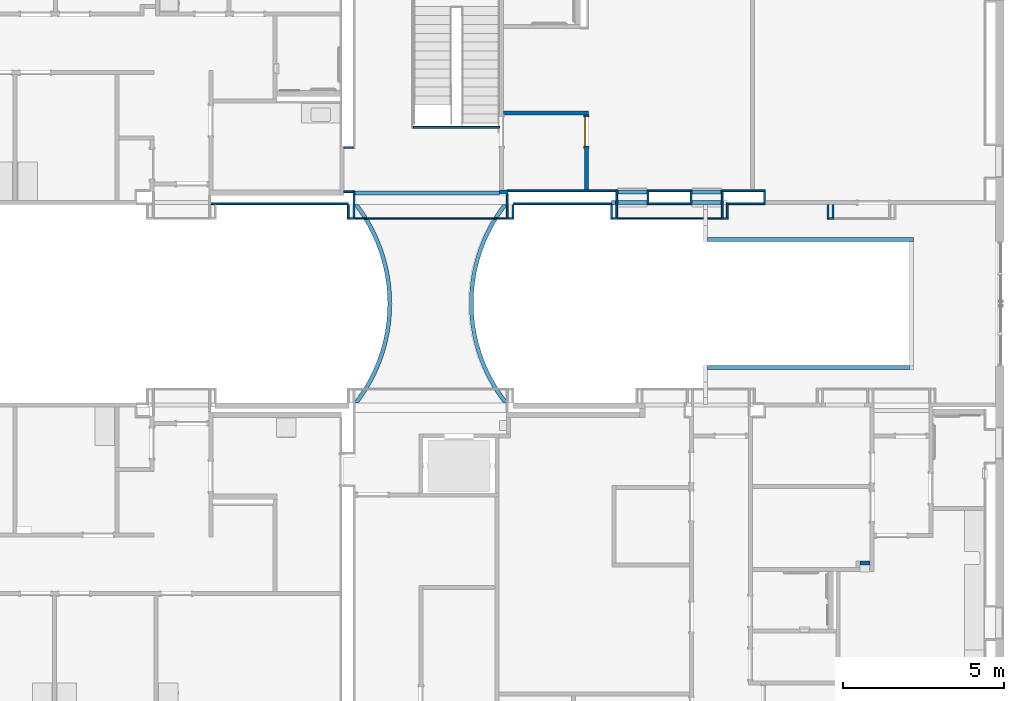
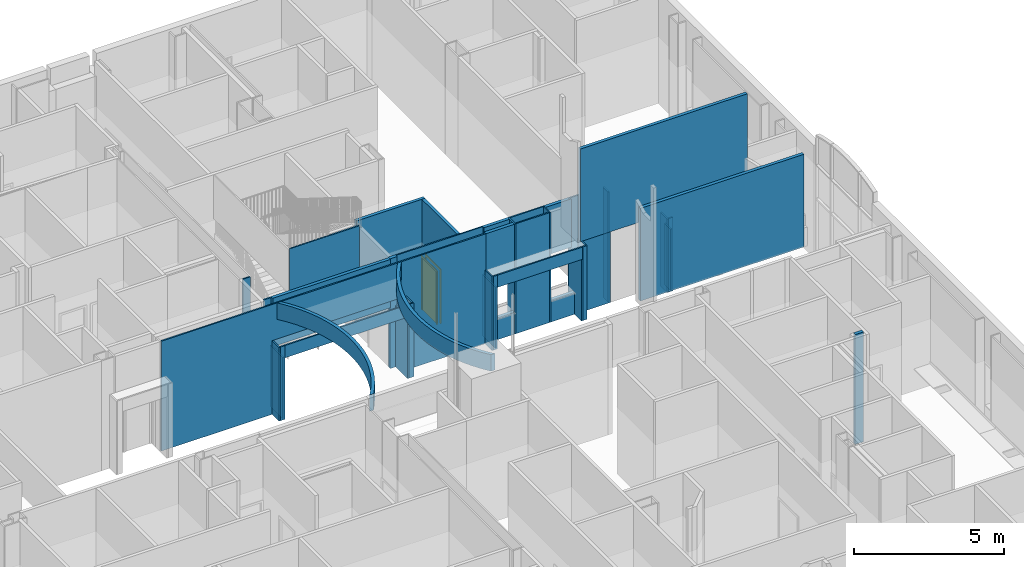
# One storey, part 37 of 82: 43 walls, 1 door, 2 openings.
"""IFC2X3 building model written with IfcOpenShell, lengths in metres."""

from ifc_helpers import new_model, entity, si_unit, converted_unit, frame, frame_2d, origin, origin_2d_with_axis, place, context, project, spatial, polyline, circle_curve, parameter, trimmed, segment, composite_curve, rectangle, outline, extrude, clip, halfspace, source, transform, mapped, material, layer, layer_set, layer_usage, type_object, type_shapes, element, fill, save


model = new_model("IFC2X3")

# Units and contexts
model_context = context("Model", 3, precision=1e-09, world=origin())
plan_context = context("Plan", 3, precision=1e-09, world=origin())
ifc_project = project(units=[si_unit("LENGTHUNIT", "METRE"), si_unit("AREAUNIT", "SQUARE_METRE"), si_unit("VOLUMEUNIT", "CUBIC_METRE"), converted_unit("PLANEANGLEUNIT", "DEGREE", entity("IfcRatioMeasure", 0.01745329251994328), si_unit("PLANEANGLEUNIT", "RADIAN"), dimensions=[0, 0, 0, 0, 0, 0, 0]), si_unit("TIMEUNIT", "SECOND")], contexts=[model_context, plan_context])

# Site, building, storey
site_placement = place(None, origin())
site = spatial("IfcSite", under=ifc_project, at=site_placement, Name="Default", CompositionType="ELEMENT")
building_placement = place(site_placement, origin())
building = spatial("IfcBuilding", under=site, at=building_placement, CompositionType="ELEMENT")
storey_placement = place(building_placement, origin())
storey = spatial("IfcBuildingStorey", under=building, at=storey_placement, Name="First Floor", CompositionType="ELEMENT", Elevation=-3.531500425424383e-13)

# Wall, opening
ifc_material_1 = material(Name="Metal - Stud Layer")
ifc_layer_1 = layer(ifc_material_1, 0.038)
ifc_material_2 = material(Name="Plasterboard")
ifc_layer_2 = layer(ifc_material_2, 0.016)
ifc_layer_set_1 = layer_set([ifc_layer_1, ifc_layer_2], Name="Basic Wall:Interior - Furring (38 mm Stud)")
ifc_layer_usage_1 = layer_usage(ifc_layer_set_1, "AXIS2", "NEGATIVE", 0.027)
wall_1_placement = place(storey_placement, frame((-24.31600000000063, 34.80699999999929, 0.0)))
wall_1 = element("IfcWallStandardCase", 1, at=wall_1_placement, inside=storey, material=ifc_layer_usage_1, Name="Basic Wall:Interior - Furring (38 mm Stud)", ObjectType="Basic Wall:Interior - Furring (38 mm Stud)", context=model_context, shape_type="SweptSolid", body=[
    extrude(rectangle(XDim=12.50500000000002, YDim=0.05399999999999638, at=frame_2d((6.25250000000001, 0.0), x_axis=(-1.0, 0.0))), origin(), (0.0, 0.0, 1.0), 4.468000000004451),
])
opening_1_placement = place(wall_1_placement, frame((6.848512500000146, 0.02699999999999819, 1.5)))
element("IfcOpeningElement", 2, at=opening_1_placement, cuts=wall_1, Name="Basic Wall:Interior - Furring (38 mm Stud):2", ObjectType="Opening", context=model_context, shape_type="SweptSolid", body=[
    extrude(rectangle(XDim=3.0, YDim=5.131024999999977, at=frame_2d((0.0, 0.0), x_axis=(0.0, 1.0))), frame((0.0, 0.0, 0.0), z_axis=(0.0, -1.0, 0.0), x_axis=(1.0, 0.0, 0.0)), (0.0, 0.0, 1.0), 0.05400000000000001),
])

# Walls
ifc_layer_3 = layer(ifc_material_2, 0.016)
ifc_layer_4 = layer(ifc_material_1, 0.092)
ifc_layer_5 = layer(ifc_material_2, 0.016)
ifc_layer_set_2 = layer_set([ifc_layer_3, ifc_layer_4, ifc_layer_5], Name="Basic Wall:Interior - Partition (92mm Stud)")
ifc_layer_usage_2 = layer_usage(ifc_layer_set_2, "AXIS2", "NEGATIVE", 0.062)
wall_2_placement = place(storey_placement, frame((-10.7300000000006, 34.84199999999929, 0.8899999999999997), z_axis=(0.0, 0.0, 1.0), x_axis=(-1.0, 0.0, 0.0)))
element("IfcWallStandardCase", 3, at=wall_2_placement, inside=storey, material=ifc_layer_usage_2, Name="Basic Wall:Interior - Partition (92mm Stud)", ObjectType="Basic Wall:Interior - Partition (92mm Stud)", context=model_context, shape_type="Clipping", body=[
    clip(extrude(rectangle(XDim=1.108000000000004, YDim=0.1239999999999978, at=frame_2d((0.5540000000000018, 0.0), x_axis=(-1.0, 0.0))), origin(), (0.0, 0.0, 1.0), 3.578000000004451), halfspace(frame((1.081000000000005, -0.0619999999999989, 1.61), z_axis=(0.0, 0.0, -1.0), x_axis=(0.0, 1.0, 0.0)), False)),
])
wall_3_placement = place(storey_placement, frame((-2.436000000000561, 33.69199999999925, 3.8), z_axis=(0.0, 0.0, 1.0), x_axis=(-1.0, 0.0, 0.0)))
element("IfcWallStandardCase", 4, at=wall_3_placement, inside=storey, material=ifc_layer_usage_2, Name="Basic Wall:Interior - Partition (92mm Stud)", ObjectType="Basic Wall:Interior - Partition (92mm Stud)", context=model_context, shape_type="SweptSolid", body=[
    extrude(rectangle(XDim=6.421726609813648, YDim=0.1240000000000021, at=frame_2d((3.210863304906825, 0.0), x_axis=(-1.0, 0.0))), origin(), (0.0, 0.0, 1.0), 3.77000000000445),
])
ifc_layer_usage_3 = layer_usage(ifc_layer_set_1, "AXIS2", "POSITIVE", -0.027)
wall_4_placement = place(storey_placement, frame((-9.367000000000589, 35.18599999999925, 0.0), z_axis=(0.0, 0.0, 1.0), x_axis=(0.0, -1.0, 0.0)))
element("IfcWallStandardCase", 5, at=wall_4_placement, inside=storey, material=ifc_layer_usage_3, Name="Basic Wall:Interior - Furring (38 mm Stud)", ObjectType="Basic Wall:Interior - Furring (38 mm Stud)", context=model_context, shape_type="SweptSolid", body=[
    extrude(rectangle(XDim=0.4059999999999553, YDim=0.05400000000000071, at=frame_2d((0.2029999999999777, 0.0), x_axis=(-1.0, 0.0))), origin(), (0.0, 0.0, 1.0), 4.46800000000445),
])
wall_5_placement = place(storey_placement, frame((-9.39400000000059, 34.80699999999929, 0.0), z_axis=(0.0, 0.0, 1.0), x_axis=(-1.0, 0.0, 0.0)))
element("IfcWallStandardCase", 6, at=wall_5_placement, inside=storey, material=ifc_layer_usage_3, Name="Basic Wall:Interior - Furring (38 mm Stud)", ObjectType="Basic Wall:Interior - Furring (38 mm Stud)", context=model_context, shape_type="SweptSolid", body=[
    extrude(rectangle(XDim=1.282000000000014, YDim=0.05399999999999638, at=frame_2d((0.641000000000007, 0.0), x_axis=(-1.0, 0.0))), origin(), (0.0, 0.0, 1.0), 4.46800000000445),
])
wall_6_placement = place(storey_placement, frame((-19.85700000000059, 34.37400192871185, 0.0), z_axis=(0.0, 0.0, 1.0), x_axis=(0.0, 1.0, 0.0)))
element("IfcWallStandardCase", 7, at=wall_6_placement, inside=storey, material=ifc_layer_usage_1, Name="Basic Wall:Interior - Furring (38 mm Stud)", ObjectType="Basic Wall:Interior - Furring (38 mm Stud)", context=model_context, shape_type="SweptSolid", body=[
    extrude(rectangle(XDim=0.8319980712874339, YDim=0.05399999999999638, at=frame_2d((0.4159990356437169, 0.0), x_axis=(-1.0, 0.0))), origin(), (0.0, 0.0, 1.0), 2.5),
])
wall_7_placement = place(storey_placement, frame((-15.08297500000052, 35.11599999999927, 0.0), z_axis=(0.0, 0.0, 1.0), x_axis=(0.0, -1.0, 0.0)))
element("IfcWallStandardCase", 8, at=wall_7_placement, inside=storey, material=ifc_layer_usage_1, Name="Basic Wall:Interior - Furring (38 mm Stud)", ObjectType="Basic Wall:Interior - Furring (38 mm Stud)", context=model_context, shape_type="SweptSolid", body=[
    extrude(rectangle(XDim=0.7960000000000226, YDim=0.05400000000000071, at=frame_2d((0.3980000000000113, 0.0), x_axis=(-1.0, 0.0))), origin(), (0.0, 0.0, 1.0), 2.5),
])
wall_8_placement = place(storey_placement, frame((-19.85700000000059, 34.34699999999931, 2.5)))
element("IfcWallStandardCase", 9, at=wall_8_placement, inside=storey, material=ifc_layer_usage_1, Name="Basic Wall:Interior - Furring (38 mm Stud)", ObjectType="Basic Wall:Interior - Furring (38 mm Stud)", context=model_context, shape_type="SweptSolid", body=[
    extrude(rectangle(XDim=4.774025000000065, YDim=0.05399999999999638, at=frame_2d((2.387012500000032, 0.0), x_axis=(-1.0, 0.0))), origin(), (0.0, 0.0, 1.0), 0.5),
])
ifc_layer_usage_4 = layer_usage(ifc_layer_set_2, "AXIS2", "POSITIVE", -0.062)
wall_9_placement = place(storey_placement, frame((-2.498000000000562, 29.70799999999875, 3.8), z_axis=(0.0, 0.0, 1.0), x_axis=(-1.0, 0.0, 0.0)))
element("IfcWallStandardCase", 10, at=wall_9_placement, inside=storey, material=ifc_layer_usage_4, Name="Basic Wall:Interior - Partition (92mm Stud)", ObjectType="Basic Wall:Interior - Partition (92mm Stud)", context=model_context, shape_type="SweptSolid", body=[
    extrude(rectangle(XDim=6.297726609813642, YDim=0.1240000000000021, at=frame_2d((3.210863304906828, 0.0), x_axis=(-1.0, 0.0))), origin(), (0.0, 0.0, 1.0), 3.77000000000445),
])
wall_10_placement = place(storey_placement, frame((-10.7030000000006, 34.77999999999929, 0.0), z_axis=(0.0, 0.0, 1.0), x_axis=(0.0, 1.0, 0.0)))
element("IfcWallStandardCase", 11, at=wall_10_placement, inside=storey, material=ifc_layer_usage_3, Name="Basic Wall:Interior - Furring (38 mm Stud)", ObjectType="Basic Wall:Interior - Furring (38 mm Stud)", context=model_context, shape_type="SweptSolid", body=[
    extrude(rectangle(XDim=0.4599999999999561, YDim=0.05400000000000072, at=frame_2d((0.229999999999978, 0.0), x_axis=(-1.0, 0.0))), origin(), (0.0, 0.0, 1.0), 4.46800000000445),
])
wall_11_placement = place(storey_placement, frame((-15.05597500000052, 35.17799999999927, 0.0), z_axis=(0.0, 0.0, 1.0), x_axis=(-1.0, 0.0, 0.0)))
element("IfcWallStandardCase", 12, at=wall_11_placement, inside=storey, material=ifc_layer_usage_2, Name="Basic Wall:Interior - Partition (92mm Stud)", ObjectType="Basic Wall:Interior - Partition (92mm Stud)", context=model_context, shape_type="SweptSolid", body=[
    extrude(rectangle(XDim=0.2640250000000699, YDim=0.1240000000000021, at=frame_2d((0.132012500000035, 0.0), x_axis=(-1.0, 0.0))), origin(), (0.0, 0.0, 1.0), 4.468000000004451),
])
wall_12_placement = place(storey_placement, frame((-19.85700000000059, 35.14399999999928, 2.5)))
element("IfcWallStandardCase", 13, at=wall_12_placement, inside=storey, material=ifc_layer_usage_2, Name="Basic Wall:Interior - Partition (92mm Stud)", ObjectType="Basic Wall:Interior - Partition (92mm Stud)", context=model_context, shape_type="SweptSolid", body=[
    extrude(rectangle(XDim=4.537000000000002, YDim=0.1239999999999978, at=frame_2d((2.268500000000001, 0.0), x_axis=(-1.0, 0.0))), origin(), (0.0, 0.0, 1.0), 1.968000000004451),
])
wall_13_placement = place(storey_placement, frame((-10.6760000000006, 35.21299999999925, 0.0)))
element("IfcWallStandardCase", 14, at=wall_13_placement, inside=storey, material=ifc_layer_usage_3, Name="Basic Wall:Interior - Furring (38 mm Stud)", ObjectType="Basic Wall:Interior - Furring (38 mm Stud)", context=model_context, shape_type="SweptSolid", body=[
    extrude(rectangle(XDim=1.336000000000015, YDim=0.05399999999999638, at=frame_2d((0.6680000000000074, 0.0), x_axis=(-1.0, 0.0))), origin(), (0.0, 0.0, 1.0), 4.46800000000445),
])
wall_14_placement = place(storey_placement, frame((-11.67700000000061, 34.37399807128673, 0.0), z_axis=(0.0, 0.0, 1.0), x_axis=(0.0, 1.0, 0.0)))
element("IfcWallStandardCase", 15, at=wall_14_placement, inside=storey, material=ifc_layer_usage_1, Name="Basic Wall:Interior - Furring (38 mm Stud)", ObjectType="Basic Wall:Interior - Furring (38 mm Stud)", context=model_context, shape_type="SweptSolid", body=[
    extrude(rectangle(XDim=0.8660019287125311, YDim=0.05400000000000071, at=frame_2d((0.4330009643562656, 0.0), x_axis=(-1.0, 0.0))), origin(), (0.0, 0.0, 1.0), 2.5),
])
wall_15_placement = place(storey_placement, frame((-8.232000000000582, 34.80699999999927, 0.0)))
element("IfcWallStandardCase", 16, at=wall_15_placement, inside=storey, material=ifc_layer_usage_1, Name="Basic Wall:Interior - Furring (38 mm Stud)", ObjectType="Basic Wall:Interior - Furring (38 mm Stud)", context=model_context, shape_type="SweptSolid", body=[
    extrude(rectangle(XDim=1.154999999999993, YDim=0.05400000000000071, at=frame_2d((0.6044999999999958, 0.0), x_axis=(-1.0, 0.0))), origin(), (0.0, 0.0, 1.0), 4.46800000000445),
])
wall_16_placement = place(storey_placement, frame((-11.7040000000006, 35.21299999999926, 0.0), z_axis=(0.0, 0.0, 1.0), x_axis=(-1.0, 0.0, 0.0)))
element("IfcWallStandardCase", 17, at=wall_16_placement, inside=storey, material=ifc_layer_usage_1, Name="Basic Wall:Interior - Furring (38 mm Stud)", ObjectType="Basic Wall:Interior - Furring (38 mm Stud)", context=model_context, shape_type="SweptSolid", body=[
    extrude(rectangle(XDim=3.378974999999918, YDim=0.05399999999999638, at=frame_2d((1.689487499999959, 0.0), x_axis=(-1.0, 0.0))), origin(), (0.0, 0.0, 1.0), 4.468000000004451),
])

# Wall, opening, door
wall_17_placement = place(storey_placement, frame((-12.62200000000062, 37.57599999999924, 0.0), z_axis=(0.0, 0.0, 1.0), x_axis=(0.0, -1.0, 0.0)))
wall_17 = element("IfcWallStandardCase", 18, at=wall_17_placement, inside=storey, material=ifc_layer_usage_2, Name="Basic Wall:Interior - Partition (92mm Stud)", ObjectType="Basic Wall:Interior - Partition (92mm Stud)", context=model_context, shape_type="SweptSolid", body=[
    extrude(rectangle(XDim=2.33599999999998, YDim=0.1240000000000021, at=frame_2d((1.16799999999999, 0.0), x_axis=(-1.0, 0.0))), origin(), (0.0, 0.0, 1.0), 4.46800000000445),
])
opening_2_placement = place(wall_17_placement, frame((0.9749999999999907, 0.0619999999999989, 0.0)))
opening_2 = element("IfcOpeningElement", 19, at=opening_2_placement, cuts=wall_17, Name="M_Single-Flush:0915 x 2134mm:0915 x 2134mm:1", ObjectType="Opening", context=model_context, shape_type="SweptSolid", body=[
    extrude(rectangle(XDim=0.9149999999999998, YDim=2.134, at=frame_2d((1.067, 0.4575), x_axis=(0.0, 1.0))), frame((0.0, 0.0, 0.0), z_axis=(0.0, -1.0, 0.0), x_axis=(0.0, 0.0, 1.0)), (0.0, 0.0, 1.0), 0.124),
])
door_style = type_object("IfcDoorStyle", Name="0915 x 2134mm", ConstructionType="NOTDEFINED", OperationType="SINGLE_SWING_RIGHT", ParameterTakesPrecedence=False, Sizeable=False)
shared_shape = source(origin(), model_context, "Body", "SweptSolid", [
    extrude(outline(polyline([(-0.5335, -1.123999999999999), (0.5334999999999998, -1.123999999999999), (0.5334999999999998, 1.086), (0.4574999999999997, 1.086), (0.4574999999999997, -1.048000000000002), (-0.4574999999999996, -1.048000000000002), (-0.4574999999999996, 1.086), (-0.5335, 1.086), (-0.5335, -1.123999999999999)])), frame((0.4575000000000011, 0.1239999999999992, 1.086), z_axis=(0.0, 1.0, 0.0), x_axis=(1.0, 0.0, 0.0)), (0.0, 0.0, 1.0), 0.02499999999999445),
    extrude(outline(polyline([(-1.123999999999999, -0.5334999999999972), (1.085999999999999, -0.5334999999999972), (1.085999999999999, -0.4575000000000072), (-1.048, -0.4575000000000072), (-1.048, 0.4575000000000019), (1.085999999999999, 0.4575000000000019), (1.085999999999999, 0.5335000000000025), (-1.123999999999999, 0.5335000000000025), (-1.123999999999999, -0.5334999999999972)])), frame((0.4575000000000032, -0.02500000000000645, 1.085999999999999), z_axis=(0.0, 1.0, 0.0), x_axis=(0.0, 0.0, -1.0)), (0.0, 0.0, 1.0), 0.02500000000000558),
    extrude(rectangle(XDim=0.051, YDim=0.9149999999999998, at=origin_2d_with_axis()), frame((0.4575000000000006, 0.09849999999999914, 0.0), z_axis=(0.0, 0.0, 1.0), x_axis=(0.0, 1.0, 0.0)), (0.0, 0.0, 1.0), 2.133999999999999),
])
type_shapes(door_style, [shared_shape])
door_placement = place(opening_2_placement, frame((0.0, 0.0, 0.0), z_axis=(0.0, 0.0, 1.0), x_axis=(-1.0, 0.0, 0.0)))
door = element("IfcDoor", 20, at=door_placement, inside=storey, type_object=door_style, Name="M_Single-Flush:0915 x 2134mm:0915 x 2134mm", ObjectType="0915 x 2134mm", OverallHeight=2.134, OverallWidth=0.9149999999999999, context=model_context, shape_type="MappedRepresentation", body=[
    mapped(shared_shape, transform((0.0, 0.0, 0.0), scale=1.0)),
])
fill(opening_2, door)

# Walls
wall_18_placement = place(storey_placement, frame((-15.19600000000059, 37.63799999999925, 0.0)))
element("IfcWallStandardCase", 21, at=wall_18_placement, inside=storey, material=ifc_layer_usage_2, Name="Basic Wall:Interior - Partition (92mm Stud)", ObjectType="Basic Wall:Interior - Partition (92mm Stud)", context=model_context, shape_type="SweptSolid", body=[
    extrude(rectangle(XDim=2.635999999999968, YDim=0.1239999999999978, at=frame_2d((1.317999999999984, 0.0), x_axis=(-1.0, 0.0))), origin(), (0.0, 0.0, 1.0), 4.468000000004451),
])
wall_19_placement = place(storey_placement, frame((-7.077000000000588, 34.83399999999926, 0.0), z_axis=(0.0, 0.0, 1.0), x_axis=(0.0, 1.0, 0.0)))
element("IfcWallStandardCase", 22, at=wall_19_placement, inside=storey, material=ifc_layer_usage_1, Name="Basic Wall:Interior - Furring (38 mm Stud)", ObjectType="Basic Wall:Interior - Furring (38 mm Stud)", context=model_context, shape_type="SweptSolid", body=[
    extrude(rectangle(XDim=0.3519999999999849, YDim=0.05400000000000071, at=frame_2d((0.1759999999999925, 0.0), x_axis=(-1.0, 0.0))), origin(), (0.0, 0.0, 1.0), 4.46800000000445),
])
wall_20_placement = place(storey_placement, frame((-20.16600000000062, 36.56199999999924, 0.0)))
element("IfcWallStandardCase", 23, at=wall_20_placement, inside=storey, material=ifc_layer_usage_1, Name="Basic Wall:Interior - Furring (38 mm Stud)", ObjectType="Basic Wall:Interior - Furring (38 mm Stud)", context=model_context, shape_type="SweptSolid", body=[
    extrude(rectangle(XDim=0.2820000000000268, YDim=0.05399999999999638, at=frame_2d((0.1410000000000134, 0.0), x_axis=(-1.0, 0.0))), origin(), (0.0, 0.0, 1.0), 4.46800000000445),
])
wall_21_placement = place(storey_placement, frame((-11.67700000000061, 34.34699999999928, 2.5)))
element("IfcWallStandardCase", 24, at=wall_21_placement, inside=storey, material=ifc_layer_usage_1, Name="Basic Wall:Interior - Furring (38 mm Stud)", ObjectType="Basic Wall:Interior - Furring (38 mm Stud)", context=model_context, shape_type="SweptSolid", body=[
    extrude(rectangle(XDim=3.284000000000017, YDim=0.05399999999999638, at=frame_2d((1.642000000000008, 0.0), x_axis=(-1.0, 0.0))), origin(), (0.0, 0.0, 1.0), 0.5),
])
wall_22_placement = place(storey_placement, frame((-8.393000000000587, 35.18599999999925, 0.0), z_axis=(0.0, 0.0, 1.0), x_axis=(0.0, -1.0, 0.0)))
element("IfcWallStandardCase", 25, at=wall_22_placement, inside=storey, material=ifc_layer_usage_1, Name="Basic Wall:Interior - Furring (38 mm Stud)", ObjectType="Basic Wall:Interior - Furring (38 mm Stud)", context=model_context, shape_type="SweptSolid", body=[
    extrude(rectangle(XDim=0.865999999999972, YDim=0.05400000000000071, at=frame_2d((0.432999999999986, 0.0), x_axis=(-1.0, 0.0))), origin(), (0.0, 0.0, 1.0), 2.5),
])
wall_23_placement = place(storey_placement, frame((-8.232000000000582, 34.37399999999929, 0.0), z_axis=(0.0, 0.0, 1.0), x_axis=(0.0, 1.0, 0.0)))
element("IfcWallStandardCase", 26, at=wall_23_placement, inside=storey, material=ifc_layer_usage_1, Name="Basic Wall:Interior - Furring (38 mm Stud)", ObjectType="Basic Wall:Interior - Furring (38 mm Stud)", context=model_context, shape_type="SweptSolid", body=[
    extrude(rectangle(XDim=0.4599999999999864, YDim=0.05400000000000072, at=frame_2d((0.2299999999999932, 0.0), x_axis=(-1.0, 0.0))), origin(), (0.0, 0.0, 1.0), 3.0),
])
wall_24_placement = place(storey_placement, frame((-7.050000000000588, 35.21299999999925, 0.0), z_axis=(0.0, 0.0, 1.0), x_axis=(-1.0, 0.0, 0.0)))
element("IfcWallStandardCase", 27, at=wall_24_placement, inside=storey, material=ifc_layer_usage_1, Name="Basic Wall:Interior - Furring (38 mm Stud)", ObjectType="Basic Wall:Interior - Furring (38 mm Stud)", context=model_context, shape_type="SweptSolid", body=[
    extrude(rectangle(XDim=1.369999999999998, YDim=0.05399999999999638, at=frame_2d((0.6849999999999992, 0.0), x_axis=(-1.0, 0.0))), origin(), (0.0, 0.0, 1.0), 4.46800000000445),
])
wall_25_placement = place(storey_placement, frame((-15.08297500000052, 34.34699999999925, 0.0)))
element("IfcWallStandardCase", 28, at=wall_25_placement, inside=storey, material=ifc_layer_usage_1, Name="Basic Wall:Interior - Furring (38 mm Stud)", ObjectType="Basic Wall:Interior - Furring (38 mm Stud)", context=model_context, shape_type="SweptSolid", body=[
    extrude(rectangle(XDim=0.1810000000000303, YDim=0.05400000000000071, at=frame_2d((0.1175000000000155, 0.0), x_axis=(-1.0, 0.0))), origin(), (0.0, 0.0, 1.0), 3.0),
])
wall_26_placement = place(storey_placement, frame((-20.00600000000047, 34.34700192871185, 0.0)))
element("IfcWallStandardCase", 29, at=wall_26_placement, inside=storey, material=ifc_layer_usage_1, Name="Basic Wall:Interior - Furring (38 mm Stud)", ObjectType="Basic Wall:Interior - Furring (38 mm Stud)", context=model_context, shape_type="SweptSolid", body=[
    extrude(rectangle(XDim=0.175999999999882, YDim=0.05399999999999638, at=frame_2d((0.08799999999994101, 0.0), x_axis=(-1.0, 0.0))), origin(), (0.0, 0.0, 1.0), 3.0),
])
wall_27_placement = place(storey_placement, frame((-8.358000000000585, 34.8419999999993, 0.0), z_axis=(0.0, 0.0, 1.0), x_axis=(-1.0, 0.0, 0.0)))
element("IfcWallStandardCase", 30, at=wall_27_placement, inside=storey, material=ifc_layer_usage_4, Name="Basic Wall:Interior - Partition (92mm Stud)", ObjectType="Basic Wall:Interior - Partition (92mm Stud)", context=model_context, shape_type="SweptSolid", body=[
    extrude(rectangle(XDim=0.9820000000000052, YDim=0.1239999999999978, at=frame_2d((0.4910000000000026, 0.0), x_axis=(-1.0, 0.0))), origin(), (0.0, 0.0, 1.0), 0.8900000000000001),
])
wall_28_placement = place(storey_placement, frame((-11.83800000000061, 34.77999999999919, 0.0), z_axis=(0.0, 0.0, 1.0), x_axis=(0.0, -1.0, 0.0)))
element("IfcWallStandardCase", 31, at=wall_28_placement, inside=storey, material=ifc_layer_usage_1, Name="Basic Wall:Interior - Furring (38 mm Stud)", ObjectType="Basic Wall:Interior - Furring (38 mm Stud)", context=model_context, shape_type="SweptSolid", body=[
    extrude(rectangle(XDim=0.4600019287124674, YDim=0.05400000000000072, at=frame_2d((0.2300009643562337, 0.0), x_axis=(-1.0, 0.0))), origin(), (0.0, 0.0, 1.0), 3.0),
])
wall_29_placement = place(storey_placement, frame((-11.81100000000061, 34.34699807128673, 0.0)))
element("IfcWallStandardCase", 32, at=wall_29_placement, inside=storey, material=ifc_layer_usage_1, Name="Basic Wall:Interior - Furring (38 mm Stud)", ObjectType="Basic Wall:Interior - Furring (38 mm Stud)", context=model_context, shape_type="SweptSolid", body=[
    extrude(rectangle(XDim=0.1610000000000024, YDim=0.05399999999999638, at=frame_2d((0.0805000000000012, 0.0), x_axis=(-1.0, 0.0))), origin(), (0.0, 0.0, 1.0), 3.0),
])
wall_30_placement = place(storey_placement, frame((-9.340000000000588, 35.17799999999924, 2.5)))
element("IfcWallStandardCase", 33, at=wall_30_placement, inside=storey, material=ifc_layer_usage_2, Name="Basic Wall:Interior - Partition (92mm Stud)", ObjectType="Basic Wall:Interior - Partition (92mm Stud)", context=model_context, shape_type="SweptSolid", body=[
    extrude(rectangle(XDim=0.9820000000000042, YDim=0.1239999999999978, at=frame_2d((0.4910000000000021, 0.0), x_axis=(-1.0, 0.0))), origin(), (0.0, 0.0, 1.0), 1.96800000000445),
])
wall_31_placement = place(storey_placement, frame((-19.85700000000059, 35.17899999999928, 0.0), z_axis=(0.0, 0.0, 1.0), x_axis=(-1.0, 0.0, 0.0)))
element("IfcWallStandardCase", 34, at=wall_31_placement, inside=storey, material=ifc_layer_usage_1, Name="Basic Wall:Interior - Furring (38 mm Stud)", ObjectType="Basic Wall:Interior - Furring (38 mm Stud)", context=model_context, shape_type="SweptSolid", body=[
    extrude(rectangle(XDim=0.2820000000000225, YDim=0.05400000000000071, at=frame_2d((0.1680000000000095, 0.0), x_axis=(-1.0, 0.0))), origin(), (0.0, 0.0, 1.0), 4.46800000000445),
])
wall_32_placement = place(storey_placement, frame((-8.393000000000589, 34.34699999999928, 0.0)))
element("IfcWallStandardCase", 35, at=wall_32_placement, inside=storey, material=ifc_layer_usage_1, Name="Basic Wall:Interior - Furring (38 mm Stud)", ObjectType="Basic Wall:Interior - Furring (38 mm Stud)", context=model_context, shape_type="SweptSolid", body=[
    extrude(rectangle(XDim=0.1610000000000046, YDim=0.05400000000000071, at=frame_2d((0.1075000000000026, 0.0), x_axis=(-1.0, 0.0))), origin(), (0.0, 0.0, 1.0), 3.0),
])
wall_33_placement = place(storey_placement, frame((-4.940500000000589, 34.37399999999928, 0.0), z_axis=(0.0, 0.0, 1.0), x_axis=(0.0, 1.0, 0.0)))
element("IfcWallStandardCase", 36, at=wall_33_placement, inside=storey, material=ifc_layer_usage_1, Name="Basic Wall:Interior - Furring (38 mm Stud)", ObjectType="Basic Wall:Interior - Furring (38 mm Stud)", context=model_context, shape_type="SweptSolid", body=[
    extrude(rectangle(XDim=0.40599999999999, YDim=0.05400000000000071, at=frame_2d((0.202999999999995, 0.0), x_axis=(-1.0, 0.0))), origin(), (0.0, 0.0, 1.0), 2.5),
])
wall_34_placement = place(storey_placement, frame((-5.074500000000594, 34.34699999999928, 0.0)))
element("IfcWallStandardCase", 37, at=wall_34_placement, inside=storey, material=ifc_layer_usage_1, Name="Basic Wall:Interior - Furring (38 mm Stud)", ObjectType="Basic Wall:Interior - Furring (38 mm Stud)", context=model_context, shape_type="SweptSolid", body=[
    extrude(rectangle(XDim=0.1610000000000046, YDim=0.05399999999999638, at=frame_2d((0.08050000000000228, 0.0), x_axis=(-1.0, 0.0))), origin(), (0.0, 0.0, 1.0), 3.0),
])
wall_35_placement = place(storey_placement, frame((-11.71200000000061, 35.17799999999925, 3.0)))
element("IfcWallStandardCase", 38, at=wall_35_placement, inside=storey, material=ifc_layer_usage_2, Name="Basic Wall:Interior - Partition (92mm Stud)", ObjectType="Basic Wall:Interior - Partition (92mm Stud)", context=model_context, shape_type="SweptSolid", body=[
    extrude(rectangle(XDim=0.9820000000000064, YDim=0.1239999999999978, at=frame_2d((0.4910000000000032, 0.0), x_axis=(-1.0, 0.0))), origin(), (0.0, 0.0, 1.0), 1.46800000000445),
])
wall_36_placement = place(storey_placement, frame((-20.03300000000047, 34.77999999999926, 0.0), z_axis=(0.0, 0.0, 1.0), x_axis=(0.0, -1.0, 0.0)))
element("IfcWallStandardCase", 39, at=wall_36_placement, inside=storey, material=ifc_layer_usage_1, Name="Basic Wall:Interior - Furring (38 mm Stud)", ObjectType="Basic Wall:Interior - Furring (38 mm Stud)", context=model_context, shape_type="SweptSolid", body=[
    extrude(rectangle(XDim=0.4599980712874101, YDim=0.05399999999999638, at=frame_2d((0.2299990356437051, 0.0), x_axis=(-1.0, 0.0))), origin(), (0.0, 0.0, 1.0), 3.0),
])
wall_37_placement = place(storey_placement, frame((-5.101500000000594, 34.77999999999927, 0.0), z_axis=(0.0, 0.0, 1.0), x_axis=(0.0, -1.0, 0.0)))
element("IfcWallStandardCase", 40, at=wall_37_placement, inside=storey, material=ifc_layer_usage_1, Name="Basic Wall:Interior - Furring (38 mm Stud)", ObjectType="Basic Wall:Interior - Furring (38 mm Stud)", context=model_context, shape_type="SweptSolid", body=[
    extrude(rectangle(XDim=0.4599999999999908, YDim=0.05400000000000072, at=frame_2d((0.2299999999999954, 0.0), x_axis=(-1.0, 0.0))), origin(), (0.0, 0.0, 1.0), 3.0),
])
wall_38_placement = place(storey_placement, frame((-14.90197500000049, 34.37399999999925, 0.0), z_axis=(0.0, 0.0, 1.0), x_axis=(0.0, 1.0, 0.0)))
element("IfcWallStandardCase", 41, at=wall_38_placement, inside=storey, material=ifc_layer_usage_1, Name="Basic Wall:Interior - Furring (38 mm Stud)", ObjectType="Basic Wall:Interior - Furring (38 mm Stud)", context=model_context, shape_type="SweptSolid", body=[
    extrude(rectangle(XDim=0.4059999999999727, YDim=0.05400000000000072, at=frame_2d((0.2029999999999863, 0.0), x_axis=(-1.0, 0.0))), origin(), (0.0, 0.0, 1.0), 3.0),
])
wall_39_placement = place(storey_placement, frame((-3.793975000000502, 23.61949999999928, 0.0), z_axis=(0.0, 0.0, 1.0), x_axis=(-1.0, 0.0, 0.0)))
element("IfcWallStandardCase", 42, at=wall_39_placement, inside=storey, material=ifc_layer_usage_2, Name="Basic Wall:Interior - Partition (92mm Stud)", ObjectType="Basic Wall:Interior - Partition (92mm Stud)", context=model_context, shape_type="SweptSolid", body=[
    extrude(rectangle(XDim=0.3160000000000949, YDim=0.1239999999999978, at=frame_2d((0.1580000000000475, 0.0), x_axis=(-1.0, 0.0))), origin(), (0.0, 0.0, 1.0), 4.46800000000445),
])
wall_40_placement = place(storey_placement, frame((-19.8235187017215, 28.57165564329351, 3.8)))
element("IfcWallStandardCase", 43, at=wall_40_placement, inside=storey, material=ifc_layer_usage_2, Name="Basic Wall:Interior - Partition (92mm Stud)", ObjectType="Basic Wall:Interior - Partition (92mm Stud)", context=model_context, shape_type="SweptSolid", body=[
    extrude(outline(composite_curve([segment(trimmed(circle_curve(frame_2d((-3.971862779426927, 3.125948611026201), x_axis=(1.0, 0.0)), 4.992428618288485), [parameter(321.7964295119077)], [parameter(38.12754216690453)], True, "PARAMETER"), False, "CONTINUOUS"), segment(polyline([(-0.0487207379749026, 0.03834435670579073), (0.1079094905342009, 0.03834435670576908)]), True, "CONTINUOUS"), segment(trimmed(circle_curve(frame_2d((-3.971862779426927, 3.125948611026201), x_axis=(1.0, 0.0)), 5.116428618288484), [parameter(322.8812728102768)], [parameter(37.0456148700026)], True, "PARAMETER"), True, "CONTINUOUS"), segment(polyline([(0.1118461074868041, 6.208344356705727), (-0.0446271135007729, 6.208344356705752)]), True, "CONTINUOUS")], self_intersect=False)), origin(), (0.0, 0.0, 1.0), 0.6680000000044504),
])
wall_41_placement = place(storey_placement, frame((-15.12030208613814, 34.81853822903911, 3.8)))
element("IfcWallStandardCase", 44, at=wall_41_placement, inside=storey, material=ifc_layer_usage_2, Name="Basic Wall:Interior - Partition (92mm Stud)", ObjectType="Basic Wall:Interior - Partition (92mm Stud)", context=model_context, shape_type="SweptSolid", body=[
    extrude(outline(composite_curve([segment(trimmed(circle_curve(frame_2d((3.91471628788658, -3.106318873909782), x_axis=(1.0, 0.0)), 4.935421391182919), [parameter(141.5680761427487)], [parameter(218.9441241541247)], True, "PARAMETER"), False, "CONTINUOUS"), segment(polyline([(0.04856752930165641, -0.03853822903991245), (-0.1085245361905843, -0.03853822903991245)]), True, "CONTINUOUS"), segment(trimmed(circle_curve(frame_2d((3.91471628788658, -3.106318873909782), x_axis=(1.0, 0.0)), 5.059421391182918), [parameter(142.6739435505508)], [parameter(217.8181222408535)], True, "PARAMETER"), True, "CONTINUOUS"), segment(polyline([(-0.0820298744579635, -6.208538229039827), (0.07614632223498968, -6.208538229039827)]), True, "CONTINUOUS")], self_intersect=False)), origin(), (0.0, 0.0, 1.0), 0.6680000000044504),
])
wall_42_placement = place(storey_placement, frame((-18.00500000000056, 37.19002780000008, 2.8)))
element("IfcWallStandardCase", 45, at=wall_42_placement, inside=storey, material=ifc_layer_usage_3, Name="Basic Wall:Interior - Furring (38 mm Stud)", ObjectType="Basic Wall:Interior - Furring (38 mm Stud)", context=model_context, shape_type="SweptSolid", body=[
    extrude(rectangle(XDim=2.68499999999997, YDim=0.05399999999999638, at=frame_2d((1.342499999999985, 0.0), x_axis=(-1.0, 0.0))), origin(), (0.0, 0.0, 1.0), 1.770000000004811),
])
wall_43_placement = place(storey_placement, frame((-11.6500000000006, 34.8419999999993, 0.0)))
element("IfcWallStandardCase", 46, at=wall_43_placement, inside=storey, material=ifc_layer_usage_2, Name="Basic Wall:Interior - Partition (92mm Stud)", ObjectType="Basic Wall:Interior - Partition (92mm Stud)", context=model_context, shape_type="SweptSolid", body=[
    extrude(rectangle(XDim=0.920000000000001, YDim=0.1239999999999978, at=frame_2d((0.4600000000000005, 0.0), x_axis=(-1.0, 0.0))), origin(), (0.0, 0.0, 1.0), 0.8900000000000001),
])

save(model, "model.ifc")
